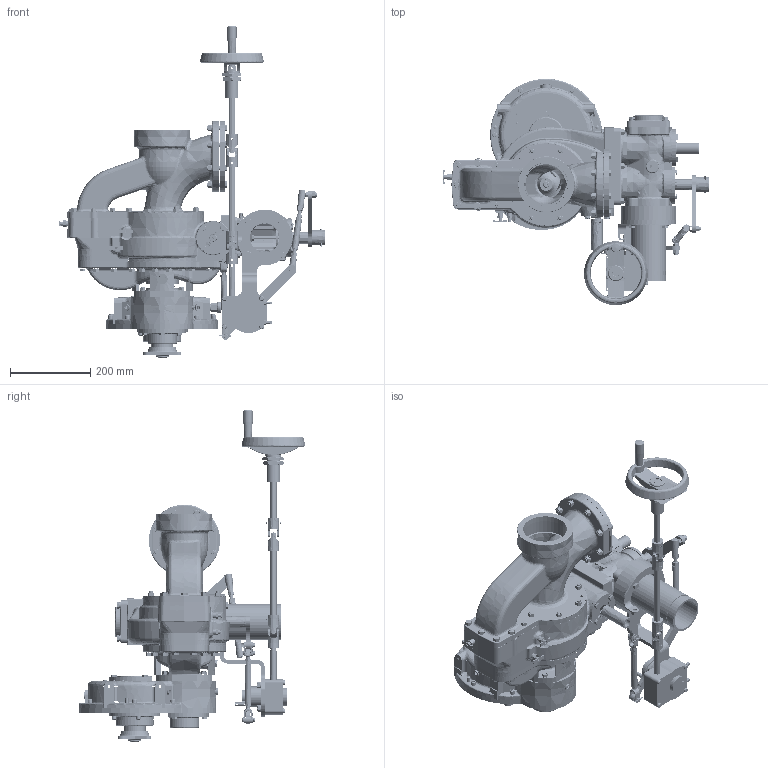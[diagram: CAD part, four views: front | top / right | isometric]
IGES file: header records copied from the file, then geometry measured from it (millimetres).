
Start section:  PTC IGES file: djd0600.igs
Global section: file name: djd0600.igs; native system: Creo Parametric by Parametric Technology Corporation; preprocessor: 2013150; author: SMS; organization: Unknown; date: 20140205.134348; units: inch
Bounding box: 662.83 x 565.48 x 827.76 mm (x, y, z)
Surface area: 1981371.3 mm2 (no closed solid volume)
Topology: 0 solids, 0 shells, 3725 faces, 20279 edges, 20267 vertices
Faces by surface type: bspline 1986, revolution 1734, extrusion 5
